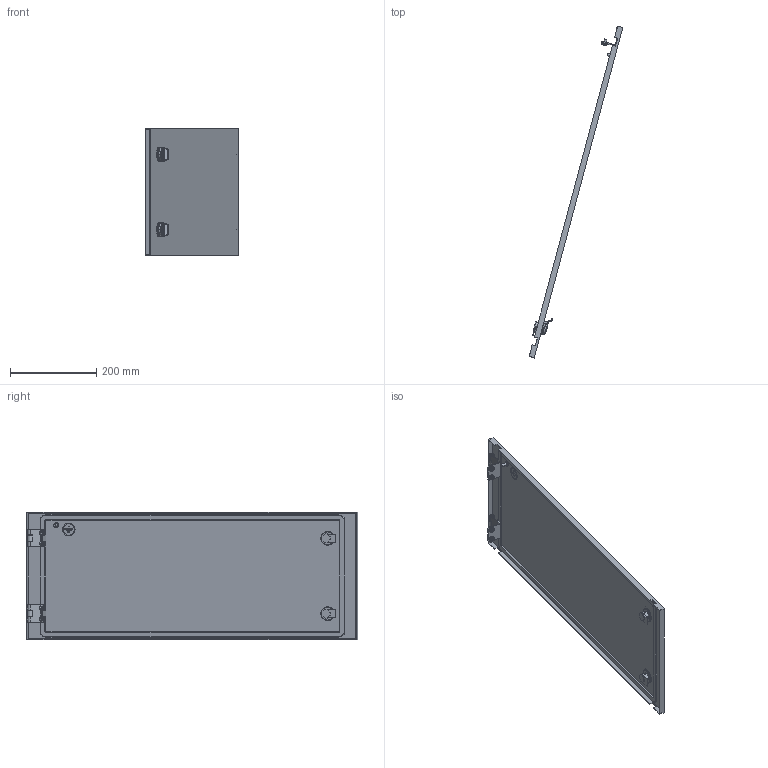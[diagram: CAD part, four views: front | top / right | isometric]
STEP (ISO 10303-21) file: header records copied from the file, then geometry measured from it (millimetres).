
FILE_DESCRIPTION (( 'STEP AP214' ), '1' );
FILE_NAME ('FO-00-ESD-030-080 Äâåðü ñåêöèîííàÿ âíåøíÿÿ 300õ800 ìì.STEP', '2025-08-20T06:28:06', ( '' ), ( '' ), 'SwSTEP 2.0', 'SolidWorks 2023', '' );
FILE_SCHEMA (( 'AUTOMOTIVE_DESIGN' ));
Length unit declared in the file: millimetre
Products named in the file (4): Петля_7.STEP; FO-00-ESD-030-080 Дверь секционная внешняя 300х800 мм; FO-00-ESD-030-080 Дверь секционная внешняя 300х800 мм.STEP; Дверь секционная внешняя 300х800 мм.STEP
Assembly tree (4 placements, depth 3):
  FO-00-ESD-030-080 Дверь секционная внешняя 300х800 мм
    FO-00-ESD-030-080 Дверь секционная внешняя 300х800 мм.STEP
      Дверь секционная внешняя 300х800 мм.STEP
      Петля_7.STEP  x2
Bounding box: 217.64 x 771.19 x 296 mm (x, y, z)
Volume: 639051.9 mm3; surface area: 558602.3 mm2
Topology: 3 solids, 12 shells, 707 faces, 1809 edges, 1168 vertices
Faces by surface type: plane 343, cylinder 268, torus 34, cone 32, bspline 30
Entity records: 20694 total; most frequent: CARTESIAN_POINT 5778, ORIENTED_EDGE 3108, DIRECTION 3078, EDGE_CURVE 1554, AXIS2_PLACEMENT_3D 1056, VERTEX_POINT 1006, VECTOR 966, LINE 966
